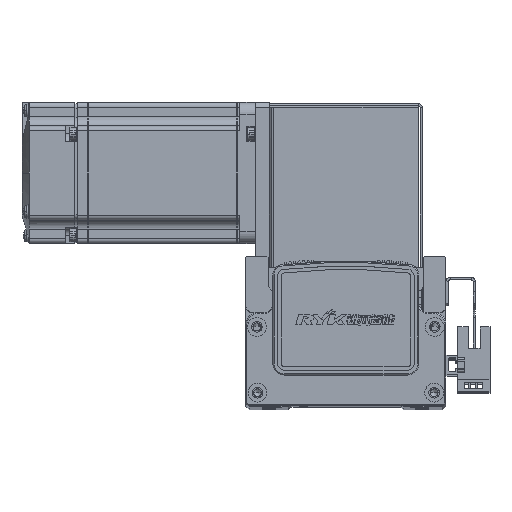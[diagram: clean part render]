
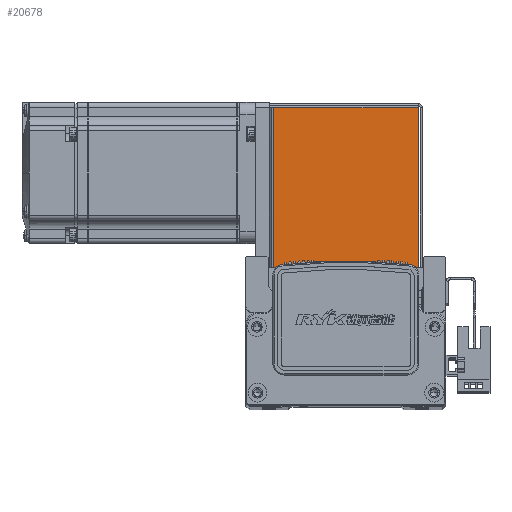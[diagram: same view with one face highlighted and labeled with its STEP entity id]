
A CAD part, top view. The second image highlights one B-rep face of the part: STEP entity #20678.
In plain terms, the highlighted planar face has unit normal (0, 0, 1).
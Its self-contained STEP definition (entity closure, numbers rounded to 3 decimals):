
#20678 = ADVANCED_FACE ( 'NONE', ( #65561 ), #50684, .F. ) ;
#23151 = EDGE_LOOP ( 'NONE', ( #62874, #62822, #62808, #62854 ) ) ;
#29626 = AXIS2_PLACEMENT_3D ( 'NONE', #50720, #50671, #50696 ) ;
#44784 = VERTEX_POINT ( 'NONE', #52809 ) ;
#44789 = VERTEX_POINT ( 'NONE', #52800 ) ;
#44818 = VERTEX_POINT ( 'NONE', #52853 ) ;
#44873 = VERTEX_POINT ( 'NONE', #52962 ) ;
#50671 = DIRECTION ( 'NONE',  ( 0., 0., -1. ) ) ;
#50684 = PLANE ( 'NONE',  #29626 ) ;
#50696 = DIRECTION ( 'NONE',  ( -1., 0., 0. ) ) ;
#50720 = CARTESIAN_POINT ( 'NONE',  ( 0., 0., 35. ) ) ;
#52800 = CARTESIAN_POINT ( 'NONE',  ( 30.763, 0.737, 35. ) ) ;
#52809 = CARTESIAN_POINT ( 'NONE',  ( 30.763, 68.5, 35. ) ) ;
#52853 = CARTESIAN_POINT ( 'NONE',  ( -30.793, 0.737, 35. ) ) ;
#52962 = CARTESIAN_POINT ( 'NONE',  ( -30.793, 68.5, 35. ) ) ;
#54178 = CARTESIAN_POINT ( 'NONE',  ( 0., 68.5, 35. ) ) ;
#54242 = DIRECTION ( 'NONE',  ( -1., 0., 0. ) ) ;
#54365 = DIRECTION ( 'NONE',  ( 0., 1., 0. ) ) ;
#54384 = CARTESIAN_POINT ( 'NONE',  ( -32.5, 0.737, 35. ) ) ;
#54396 = DIRECTION ( 'NONE',  ( -1., 0., 0. ) ) ;
#54416 = CARTESIAN_POINT ( 'NONE',  ( 30.763, 0.737, 35. ) ) ;
#54469 = CARTESIAN_POINT ( 'NONE',  ( -30.793, 0., 35. ) ) ;
#54504 = DIRECTION ( 'NONE',  ( 0., 1., 0. ) ) ;
#61537 = EDGE_CURVE ( 'NONE', #44784, #44873, #73818, .T. ) ;
#61557 = EDGE_CURVE ( 'NONE', #44789, #44784, #73817, .T. ) ;
#61565 = EDGE_CURVE ( 'NONE', #44789, #44818, #73881, .T. ) ;
#61571 = EDGE_CURVE ( 'NONE', #44818, #44873, #73897, .T. ) ;
#62808 = ORIENTED_EDGE ( 'NONE', *, *, #61571, .F. ) ;
#62822 = ORIENTED_EDGE ( 'NONE', *, *, #61537, .T. ) ;
#62854 = ORIENTED_EDGE ( 'NONE', *, *, #61565, .F. ) ;
#62874 = ORIENTED_EDGE ( 'NONE', *, *, #61557, .T. ) ;
#65561 = FACE_OUTER_BOUND ( 'NONE', #23151, .T. ) ;
#73803 = VECTOR ( 'NONE', #54242, 1000. ) ;
#73817 = LINE ( 'NONE', #54416, #73827 ) ;
#73818 = LINE ( 'NONE', #54178, #73803 ) ;
#73827 = VECTOR ( 'NONE', #54365, 1000. ) ;
#73865 = VECTOR ( 'NONE', #54396, 1000. ) ;
#73881 = LINE ( 'NONE', #54384, #73865 ) ;
#73897 = LINE ( 'NONE', #54469, #73899 ) ;
#73899 = VECTOR ( 'NONE', #54504, 1000. ) ;
